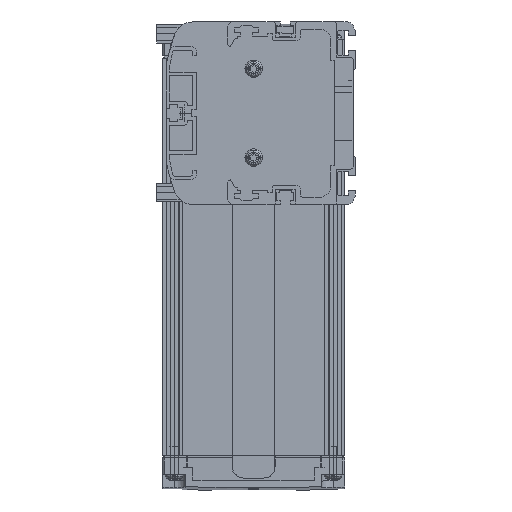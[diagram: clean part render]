
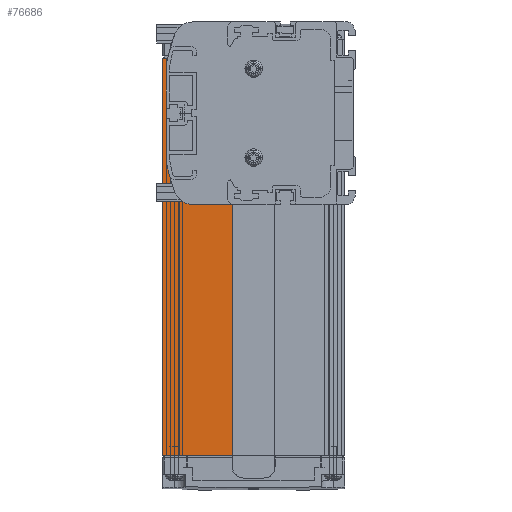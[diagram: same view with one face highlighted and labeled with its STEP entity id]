
A CAD part, left-side view. The second image highlights one B-rep face of the part: STEP entity #76686.
In plain terms, the highlighted planar face has unit normal (-1, 0, 0).
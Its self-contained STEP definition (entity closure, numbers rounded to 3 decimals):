
#74627=DIRECTION('',(0.,0.,1.));
#74628=VECTOR('',#74627,51.);
#74629=CARTESIAN_POINT('',(3.,70.5,-27.5));
#74630=LINE('',#74629,#74628);
#75276=DIRECTION('',(0.,0.,1.));
#75277=VECTOR('',#75276,170.);
#75278=CARTESIAN_POINT('',(3.,82.5,-146.5));
#75279=LINE('',#75278,#75277);
#75294=DIRECTION('',(0.,-1.,0.));
#75295=VECTOR('',#75294,29.9);
#75296=CARTESIAN_POINT('',(3.,82.5,-146.5));
#75297=LINE('',#75296,#75295);
#75298=DIRECTION('',(0.,1.,0.));
#75299=VECTOR('',#75298,12.);
#75300=CARTESIAN_POINT('',(3.,70.5,23.5));
#75301=LINE('',#75300,#75299);
#75302=DIRECTION('',(0.,1.,0.));
#75303=VECTOR('',#75302,17.9);
#75304=CARTESIAN_POINT('',(3.,52.6,-27.5));
#75305=LINE('',#75304,#75303);
#75412=DIRECTION('',(0.,0.,1.));
#75413=VECTOR('',#75412,119.);
#75414=CARTESIAN_POINT('',(3.,52.6,-146.5));
#75415=LINE('',#75414,#75413);
#75499=CARTESIAN_POINT('',(3.,70.5,23.5));
#75501=VERTEX_POINT('',#75499);
#75593=CARTESIAN_POINT('',(3.,82.5,23.5));
#75594=VERTEX_POINT('',#75593);
#75667=CARTESIAN_POINT('',(3.,82.5,-146.5));
#75668=VERTEX_POINT('',#75667);
#75669=CARTESIAN_POINT('',(3.,52.6,-146.5));
#75670=VERTEX_POINT('',#75669);
#75731=CARTESIAN_POINT('',(3.,70.5,-27.5));
#75732=VERTEX_POINT('',#75731);
#75733=CARTESIAN_POINT('',(3.,52.6,-27.5));
#75734=VERTEX_POINT('',#75733);
#76671=CARTESIAN_POINT('',(3.,67.55,-61.5));
#76672=DIRECTION('',(1.,0.,0.));
#76673=DIRECTION('',(0.,1.,0.));
#76674=AXIS2_PLACEMENT_3D('',#76671,#76672,#76673);
#76675=PLANE('',#76674);
#76676=ORIENTED_EDGE('',*,*,#75917,.F.);
#76678=ORIENTED_EDGE('',*,*,#76677,.F.);
#76680=ORIENTED_EDGE('',*,*,#76679,.F.);
#76681=ORIENTED_EDGE('',*,*,#76245,.F.);
#76682=ORIENTED_EDGE('',*,*,#76659,.T.);
#76683=ORIENTED_EDGE('',*,*,#75786,.F.);
#76684=EDGE_LOOP('',(#76676,#76678,#76680,#76681,#76682,#76683));
#76685=FACE_OUTER_BOUND('',#76684,.F.);
#76686=ADVANCED_FACE('',(#76685),#76675,.F.);
#75786=EDGE_CURVE('',#75501,#75594,#75301,.T.);
#75917=EDGE_CURVE('',#75732,#75501,#74630,.T.);
#76245=EDGE_CURVE('',#75668,#75670,#75297,.T.);
#76659=EDGE_CURVE('',#75668,#75594,#75279,.T.);
#76677=EDGE_CURVE('',#75734,#75732,#75305,.T.);
#76679=EDGE_CURVE('',#75670,#75734,#75415,.T.);
